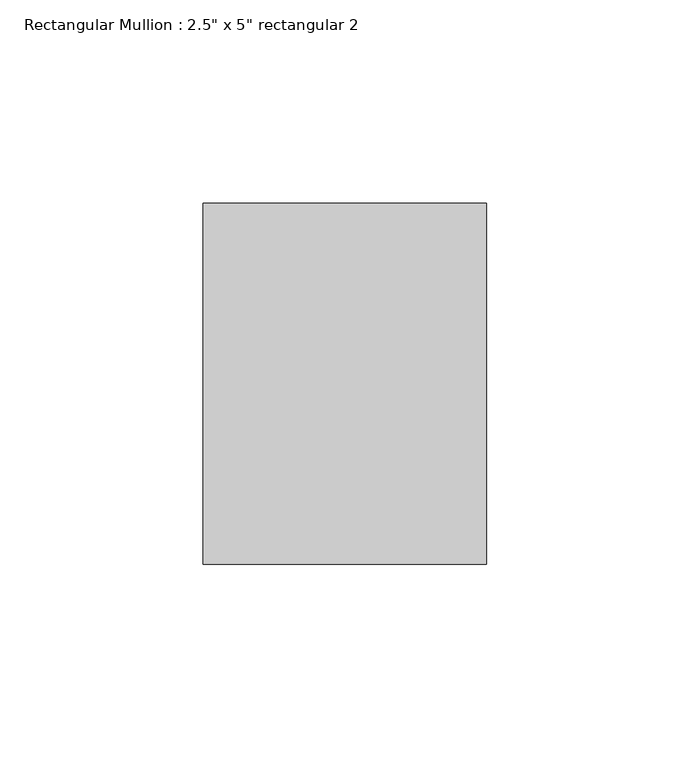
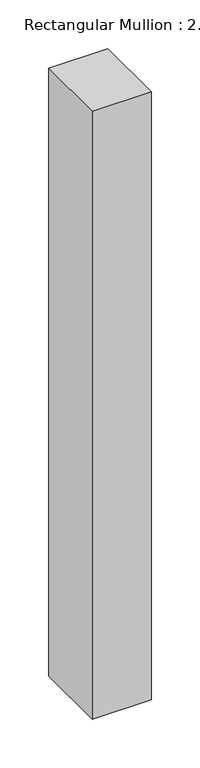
"""IFC4 building model written with IfcOpenShell, lengths in millimetres: member geometry."""

from ifc_helpers import new_model, si_unit, frame, origin, place, context, project, spatial, polyline, outline, extrude, source, transform, mapped, element, save


def member_a4e05f77(model_context):
    return source(origin(), model_context, "Body", "SweptSolid", [
        extrude(outline(polyline([(0.0, 44.45), (0.0, -44.45), (-69.85, -44.45), (-69.85, 44.45), (0.0, 44.45)])), frame((0.0, 0.0, -761.107202), z_axis=(0.0, 0.0, 1.0), x_axis=(1.0, 0.0, 0.0)), (0.0, 0.0, 1.0), 761.107202),
    ])


if __name__ == "__main__":
    model = new_model("IFC4")
    model_context = context("Model", 3, world=origin())
    ifc_project = project(units=[si_unit("LENGTHUNIT", "METRE", prefix="MILLI")], contexts=[model_context])
    site = spatial("IfcSite", under=ifc_project)
    building = spatial("IfcBuilding", under=site)
    placement = place(None, origin())
    member_shape = member_a4e05f77(model_context)
    element("IfcMember", 1, ObjectType="Rectangular Mullion : 2.5\" x 5\" rectangular 2", at=placement, inside=building, context=model_context, shape_type="MappedRepresentation", body=[
        mapped(member_shape, transform((0.0, 0.0, 0.0), x_axis=(1.0, 0.0, 0.0), y_axis=(0.0, 1.0, 0.0), z_axis=(0.0, 0.0, 1.0))),
    ])
    save(model, "model.ifc")
